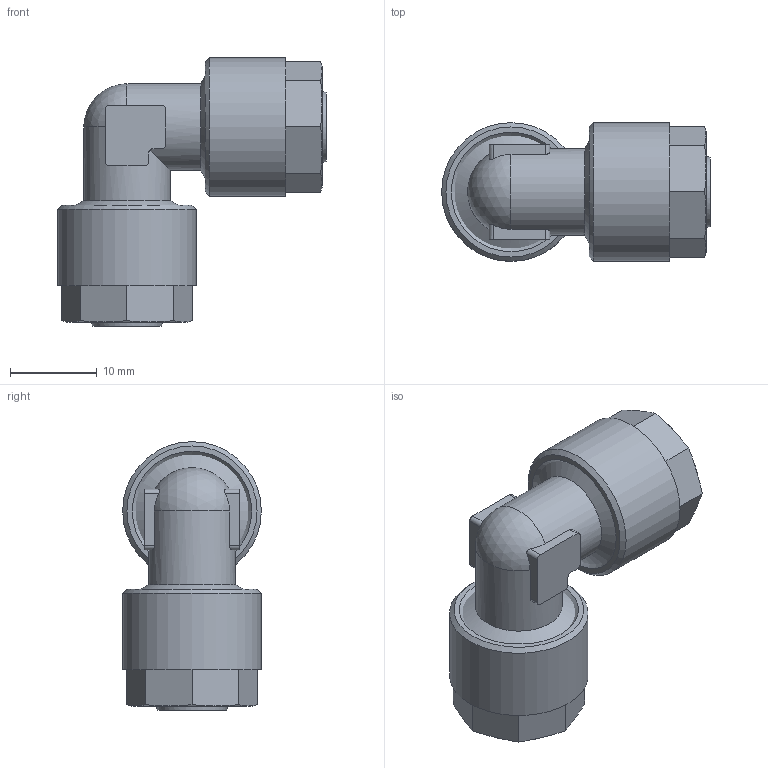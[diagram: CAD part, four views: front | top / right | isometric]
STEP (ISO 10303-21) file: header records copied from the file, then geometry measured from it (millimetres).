
FILE_DESCRIPTION(/* description */ (''),/* implementation_level */ '2;1');
FILE_NAME(/* name */ '11306_306_108_10.08.17',/* time_stamp */ '2017-08-10T11:05:04+02:00',/* author */ (''),/* organization */ (''),/* preprocessor_version */ 'ST-DEVELOPER v16.5',/* originating_system */ 'HiCAD 2016 2102.2 Build 618',/* authorisation */ '');
FILE_SCHEMA (('AUTOMOTIVE_DESIGN { 1 0 10303 214 1 1 1 1 }'));
Length unit declared in the file: millimetre
Products named in the file (4): Root; R11306; 17007
Assembly tree (3 placements, depth 2):
  Root
    R11306
    17007
    17007
Bounding box: 31 x 16 x 31 mm (x, y, z)
Volume: 4551.1 mm3; surface area: 5540.2 mm2
Topology: 3 solids, 3 shells, 105 faces, 267 edges, 171 vertices
Faces by surface type: plane 42, cone 33, cylinder 27, torus 2, sphere 1
Full cylindrical faces by diameter (mm): 7 x2, 8.5 x2, 10 x4, 12.773 x2, 14 x2, 16 x2
Entity records: 7961 total; most frequent: CARTESIAN_POINT 3432, DIRECTION 526, PRESENTATION_STYLE_ASSIGNMENT 431, COLOUR_RGB 429, DRAUGHTING_PRE_DEFINED_CURVE_FONT 428, CURVE_STYLE 428, OVER_RIDING_STYLED_ITEM 428, ORIENTED_EDGE 428
